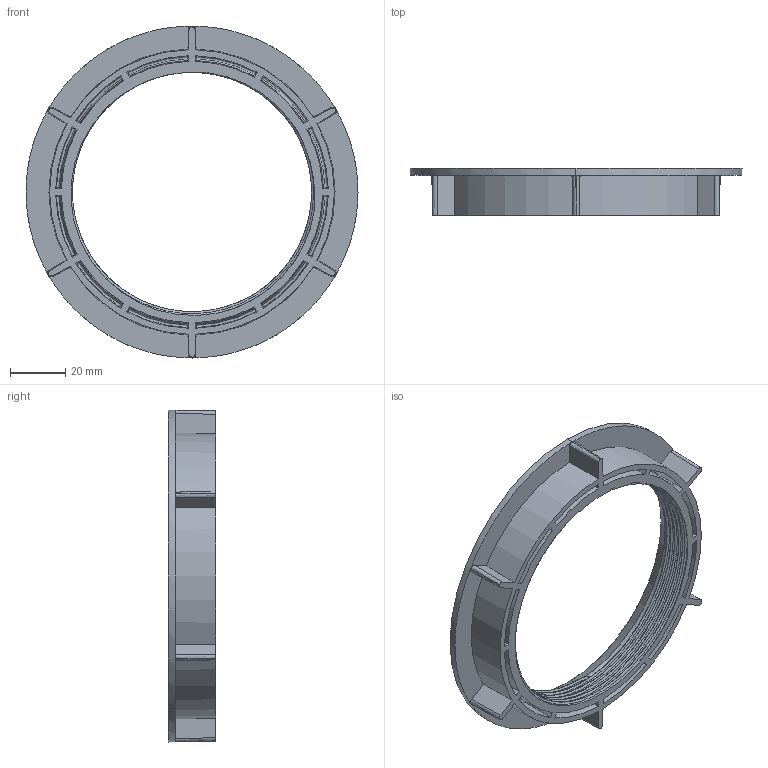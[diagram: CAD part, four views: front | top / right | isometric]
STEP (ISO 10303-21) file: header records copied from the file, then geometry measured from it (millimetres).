
FILE_DESCRIPTION (( 'STEP AP214' ), '1' );
FILE_NAME ('P-01005 - Sink Mount Drain Nut - v2.2.7.STEP', '2026-06-12T21:54:22', ( '' ), ( '' ), 'SwSTEP 2.0', 'SolidWorks 2023', '' );
FILE_SCHEMA (( 'AUTOMOTIVE_DESIGN' ));
Length unit declared in the file: inch
Products named in the file (1): P-01005 - Sink Mount Drain Nut - v2.2.7
Bounding box: 120 x 17 x 120 mm (x, y, z)
Volume: 37780.1 mm3; surface area: 31505 mm2
Topology: 1 solids, 1 shells, 235 faces, 616 edges, 413 vertices
Faces by surface type: plane 98, cone 82, torus 26, bspline 17, cylinder 12
Entity records: 15108 total; most frequent: CARTESIAN_POINT 9762, ORIENTED_EDGE 1232, DIRECTION 919, EDGE_CURVE 616, VERTEX_POINT 413, AXIS2_PLACEMENT_3D 392, B_SPLINE_CURVE_WITH_KNOTS 308, EDGE_LOOP 267
